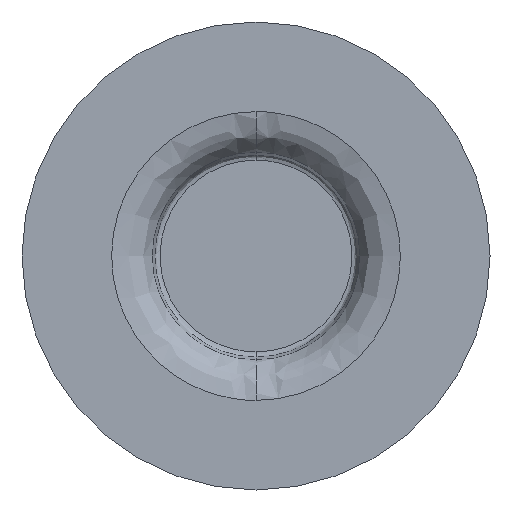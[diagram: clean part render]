
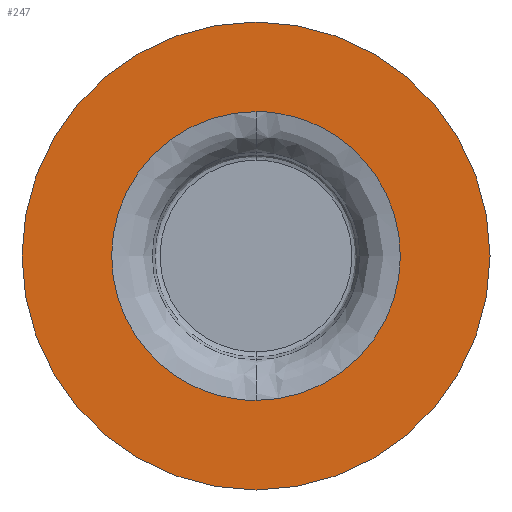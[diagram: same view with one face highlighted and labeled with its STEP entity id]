
A CAD part, front view. The second image highlights one B-rep face of the part: STEP entity #247.
In plain terms, the highlighted planar face has unit normal (0, -1, 0).
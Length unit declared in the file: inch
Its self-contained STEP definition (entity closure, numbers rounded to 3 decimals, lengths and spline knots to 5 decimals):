
#1 = CIRCLE ( 'NONE', #338, 0.625 ) ;
#2 = CARTESIAN_POINT ( 'NONE',  ( 0., -0.206, 0. ) ) ;
#22 = VERTEX_POINT ( 'NONE', #556 ) ;
#25 = CARTESIAN_POINT ( 'NONE',  ( -0.77122, -0.206, -0.38561 ) ) ;
#27 = PLANE ( 'NONE',  #121 ) ;
#64 = CARTESIAN_POINT ( 'NONE',  ( 0., -0.206, 0.38561 ) ) ;
#66 = CARTESIAN_POINT ( 'NONE',  ( 0., -0.206, -0.625 ) ) ;
#78 = CARTESIAN_POINT ( 'NONE',  ( 0., -0.206, 0.38561 ) ) ;
#84 = VERTEX_POINT ( 'NONE', #66 ) ;
#94 = FACE_OUTER_BOUND ( 'NONE', #634, .T. ) ;
#121 = AXIS2_PLACEMENT_3D ( 'NONE', #471, #667, #208 ) ;
#127 = CARTESIAN_POINT ( 'NONE',  ( 0., -0.206, 0. ) ) ;
#145 = ORIENTED_EDGE ( 'NONE', *, *, #193, .F. ) ;
#184 = DIRECTION ( 'NONE',  ( 0., 0., 1. ) ) ;
#193 = EDGE_CURVE ( 'NONE', #571, #22, #211, .T. ) ;
#208 = DIRECTION ( 'NONE',  ( 0., 0., 1. ) ) ;
#211 =( BOUNDED_CURVE ( )  B_SPLINE_CURVE ( 3, ( #835, #504, #769, #64 ),
 .UNSPECIFIED., .F., .T. ) 
 B_SPLINE_CURVE_WITH_KNOTS ( ( 4, 4 ),
 ( 0., 1. ),
 .UNSPECIFIED. ) 
 CURVE ( )  GEOMETRIC_REPRESENTATION_ITEM ( )  RATIONAL_B_SPLINE_CURVE ( ( 1., 0.333, 0.333, 1. ) ) 
 REPRESENTATION_ITEM ( '' )  );
#245 = DIRECTION ( 'NONE',  ( 0., 1., 0. ) ) ;
#247 = ADVANCED_FACE ( 'NONE', ( #401, #94 ), #27, .F. ) ;
#253 = EDGE_CURVE ( 'NONE', #22, #571, #465, .T. ) ;
#323 = CIRCLE ( 'NONE', #775, 0.625 ) ;
#334 = CARTESIAN_POINT ( 'NONE',  ( -0.77122, -0.206, 0.38561 ) ) ;
#338 = AXIS2_PLACEMENT_3D ( 'NONE', #127, #245, #580 ) ;
#382 = ORIENTED_EDGE ( 'NONE', *, *, #253, .F. ) ;
#401 = FACE_BOUND ( 'NONE', #519, .T. ) ;
#430 = ORIENTED_EDGE ( 'NONE', *, *, #506, .F. ) ;
#465 =( BOUNDED_CURVE ( )  B_SPLINE_CURVE ( 3, ( #78, #334, #25, #466 ),
 .UNSPECIFIED., .F., .F. ) 
 B_SPLINE_CURVE_WITH_KNOTS ( ( 4, 4 ),
 ( 0., 1. ),
 .UNSPECIFIED. ) 
 CURVE ( )  GEOMETRIC_REPRESENTATION_ITEM ( )  RATIONAL_B_SPLINE_CURVE ( ( 1., 0.333, 0.333, 1. ) ) 
 REPRESENTATION_ITEM ( '' )  );
#466 = CARTESIAN_POINT ( 'NONE',  ( 0., -0.206, -0.38561 ) ) ;
#471 = CARTESIAN_POINT ( 'NONE',  ( 0.38561, -0.206, 0. ) ) ;
#504 = CARTESIAN_POINT ( 'NONE',  ( 0.77122, -0.206, -0.38561 ) ) ;
#506 = EDGE_CURVE ( 'NONE', #618, #84, #1, .T. ) ;
#519 = EDGE_LOOP ( 'NONE', ( #382, #145 ) ) ;
#536 = EDGE_CURVE ( 'NONE', #84, #618, #323, .T. ) ;
#556 = CARTESIAN_POINT ( 'NONE',  ( 0., -0.206, 0.38561 ) ) ;
#571 = VERTEX_POINT ( 'NONE', #710 ) ;
#580 = DIRECTION ( 'NONE',  ( 0., 0., 1. ) ) ;
#618 = VERTEX_POINT ( 'NONE', #803 ) ;
#634 = EDGE_LOOP ( 'NONE', ( #430, #774 ) ) ;
#642 = DIRECTION ( 'NONE',  ( 0., 1., 0. ) ) ;
#667 = DIRECTION ( 'NONE',  ( 0., 1., 0. ) ) ;
#710 = CARTESIAN_POINT ( 'NONE',  ( 0., -0.206, -0.38561 ) ) ;
#769 = CARTESIAN_POINT ( 'NONE',  ( 0.77122, -0.206, 0.38561 ) ) ;
#774 = ORIENTED_EDGE ( 'NONE', *, *, #536, .F. ) ;
#775 = AXIS2_PLACEMENT_3D ( 'NONE', #2, #642, #184 ) ;
#803 = CARTESIAN_POINT ( 'NONE',  ( 0., -0.206, 0.625 ) ) ;
#835 = CARTESIAN_POINT ( 'NONE',  ( 0., -0.206, -0.38561 ) ) ;
